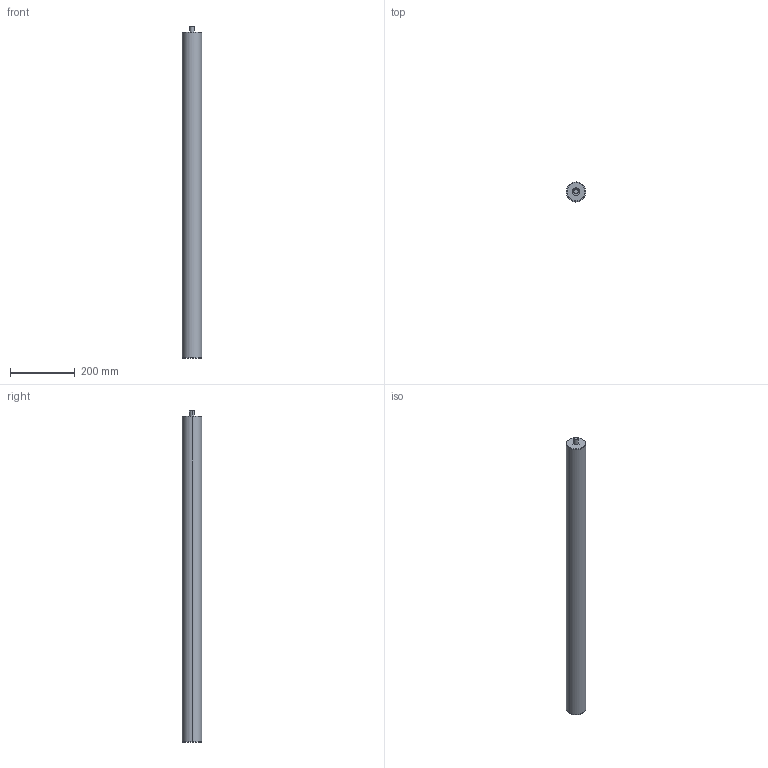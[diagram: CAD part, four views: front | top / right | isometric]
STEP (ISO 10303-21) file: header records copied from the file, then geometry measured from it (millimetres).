
FILE_DESCRIPTION (( 'STEP AP214' ), '1' );
FILE_NAME ('291-60-720-R1-SCR.step', '2023-08-30T05:22:13', ( '' ), ( '' ), 'SwSTEP 2.0', 'SolidWorks 2022', '' );
FILE_SCHEMA (( 'AUTOMOTIVE_DESIGN' ));
Length unit declared in the file: millimetre
Products named in the file (3): 291-60-720-R1-SCR; WB2910 mutter^WBVES_Tr24-M8; WB2910 Rund^WBVES_60-720-1
Assembly tree (2 placements, depth 2):
  291-60-720-R1-SCR
    WB2910 mutter^WBVES_Tr24-M8
    WB2910 Rund^WBVES_60-720-1
Bounding box: 60 x 60 x 1024 mm (x, y, z)
Volume: 999263 mm3; surface area: 456102 mm2
Topology: 2 solids, 2 shells, 48 faces, 114 edges, 71 vertices
Faces by surface type: cylinder 25, plane 17, cone 6
Entity records: 1881 total; most frequent: CARTESIAN_POINT 450, DIRECTION 248, ORIENTED_EDGE 220, EDGE_CURVE 110, AXIS2_PLACEMENT_3D 97, VERTEX_POINT 71, EDGE_LOOP 57, LINE 54
